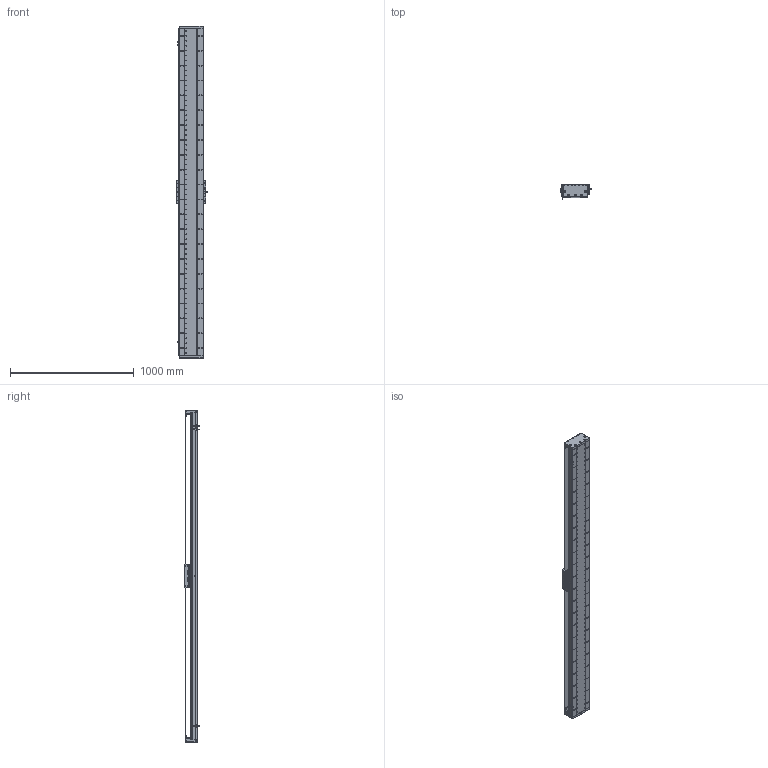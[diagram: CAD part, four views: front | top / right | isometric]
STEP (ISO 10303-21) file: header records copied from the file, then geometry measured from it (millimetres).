
FILE_DESCRIPTION (( 'STEP AP203' ), '1' );
FILE_NAME ('DA-C195-C2-T2400-C010-0.2 眻盄萇儂.STEP', '2025-08-15T01:12:39', ( '' ), ( '' ), 'SwSTEP 2.0', 'SolidWorks 2019', '' );
FILE_SCHEMA (( 'CONFIG_CONTROL_DESIGN' ));
Length unit declared in the file: millimetre
Products named in the file (15): DA95-HXJ-00 遣喳砎蝶; DA195詩湍郪璃; DA195詩湍菜輸; CU195-C2賑輸-俋楷; LMT黍杅芛; DA165-GYP-00 光电感应片(默认); IU-CU195-L-00 菁釱(L2640); DA195詩湍裔啣; 葩璃 DA95-GT-T-00; DA195詩湍嶺輸; PM-T45ㄗ侂狟ㄘ; IU-CU195-L 菁釱絳寢; DA-C195-C2-T2400-C010-0.2 眻盄萇儂; MS200 棠掑喜S315-T1740; DA-C195-GD-DB-H-00 傷啣
Assembly tree (29 placements, depth 3):
  DA-C195-C2-T2400-C010-0.2 眻盄萇儂
    DA195詩湍郪璃
      DA195詩湍菜輸  x2
      DA195詩湍裔啣
      DA195詩湍嶺輸  x2
      DA95-HXJ-00 遣喳砎蝶  x8
      DA-C195-GD-DB-H-00 傷啣  x2
    IU-CU195-L 菁釱絳寢
      IU-CU195-L-00 菁釱(L2640)
      葩璃 DA95-GT-T-00  x4
    LMT黍杅芛
    MS200 棠掑喜S315-T1740
    PM-T45ㄗ侂狟ㄘ  x3
    DA165-GYP-00 光电感应片(默认)
    CU195-C2賑輸-俋楷
Bounding box: 248 x 115.45 x 2680 mm (x, y, z)
Volume: 15353024.5 mm3; surface area: 4543934.9 mm2
Topology: 66 solids, 130 shells, 4402 faces, 12307 edges, 7751 vertices
Faces by surface type: cylinder 2383, plane 1401, cone 530, torus 52, sphere 36
Entity records: 141233 total; most frequent: CARTESIAN_POINT 38374, ORIENTED_EDGE 21498, DIRECTION 20712, EDGE_CURVE 10749, AXIS2_PLACEMENT_3D 7785, VERTEX_POINT 6953, LINE 5142, VECTOR 5142
